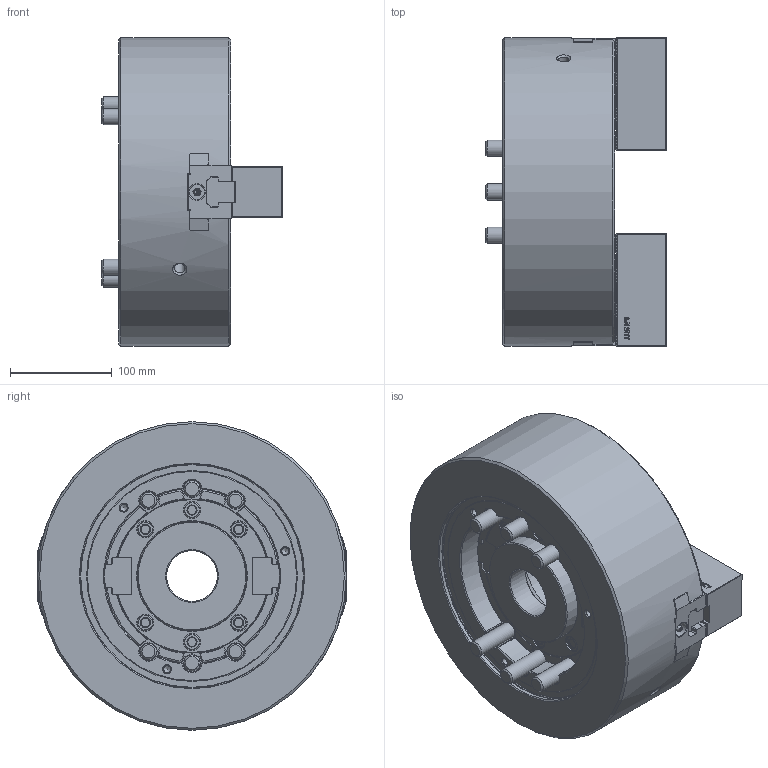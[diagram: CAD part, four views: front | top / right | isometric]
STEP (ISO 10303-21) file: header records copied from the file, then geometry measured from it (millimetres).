
FILE_DESCRIPTION (( 'STEP AP214' ), '1' );
FILE_NAME ('DT1_BT212_OUTSIDE_VIEW_UC.STEP', '2024-05-09T02:46:29', ( '' ), ( '' ), 'SwSTEP 2.0', 'SolidWorks 2022', '' );
FILE_SCHEMA (( 'AUTOMOTIVE_DESIGN' ));
Length unit declared in the file: millimetre
Products named in the file (9): DT1_BT212_M16x40^DT1-BT212_ﾃﾞﾌｫﾙﾄ; DT1_BT212_M6x10^DT1-BT212_ﾃﾞﾌｫﾙﾄ; DT1_BT212_TNUT^DT1-BT212_ﾃﾞﾌｫﾙﾄ; DT1_BT212_OUTSIDE_VIEW_UC; DT1_BT212_COVER^DT1-BT212_ﾃﾞﾌｫﾙﾄ; DT1_BT212_M16x110^DT1-BT212_ﾃﾞﾌｫﾙﾄ; DT1_BT212_SOFTJAW^DT1-BT212_ﾃﾞﾌｫﾙﾄ; DT1_BT212_DRAWNUT^DT1-BT212_ﾃﾞﾌｫﾙﾄ; DT1_BT212_BASE^DT1-BT212_ﾃﾞﾌｫﾙﾄ
Assembly tree (21 placements, depth 2):
  DT1_BT212_OUTSIDE_VIEW_UC
    DT1_BT212_SOFTJAW^DT1-BT212_ﾃﾞﾌｫﾙﾄ  x2
    DT1_BT212_TNUT^DT1-BT212_ﾃﾞﾌｫﾙﾄ  x2
    DT1_BT212_DRAWNUT^DT1-BT212_ﾃﾞﾌｫﾙﾄ
    DT1_BT212_COVER^DT1-BT212_ﾃﾞﾌｫﾙﾄ
    DT1_BT212_BASE^DT1-BT212_ﾃﾞﾌｫﾙﾄ
    DT1_BT212_M6x10^DT1-BT212_ﾃﾞﾌｫﾙﾄ  x4
    DT1_BT212_M16x40^DT1-BT212_ﾃﾞﾌｫﾙﾄ  x4
    DT1_BT212_M16x110^DT1-BT212_ﾃﾞﾌｫﾙﾄ  x6
Bounding box: 178 x 304.05 x 304 mm (x, y, z)
Volume: 7271007.3 mm3; surface area: 600127.3 mm2
Topology: 21 solids, 21 shells, 3959 faces, 11259 edges, 7420 vertices
Faces by surface type: plane 2629, cylinder 798, cone 272, bspline 213, torus 45, sphere 2
Full cylindrical faces by diameter (mm): 2 x2, 5 x4, 6 x4, 6.6 x4, 6.8 x3, 10.2 x2, 10.5 x4, 11 x4, 14 x4, 15 x2, 16 x10, 17 x16, 24.33 x10, 25 x10, 50 x1, 91 x2, 96 x2, 101 x1, 108 x2, 220 x1, 220.8 x1, 304 x1
Entity records: 105565 total; most frequent: CARTESIAN_POINT 31205, ORIENTED_EDGE 16866, DIRECTION 13144, EDGE_CURVE 8433, LINE 5938, VECTOR 5938, VERTEX_POINT 5637, AXIS2_PLACEMENT_3D 3603
